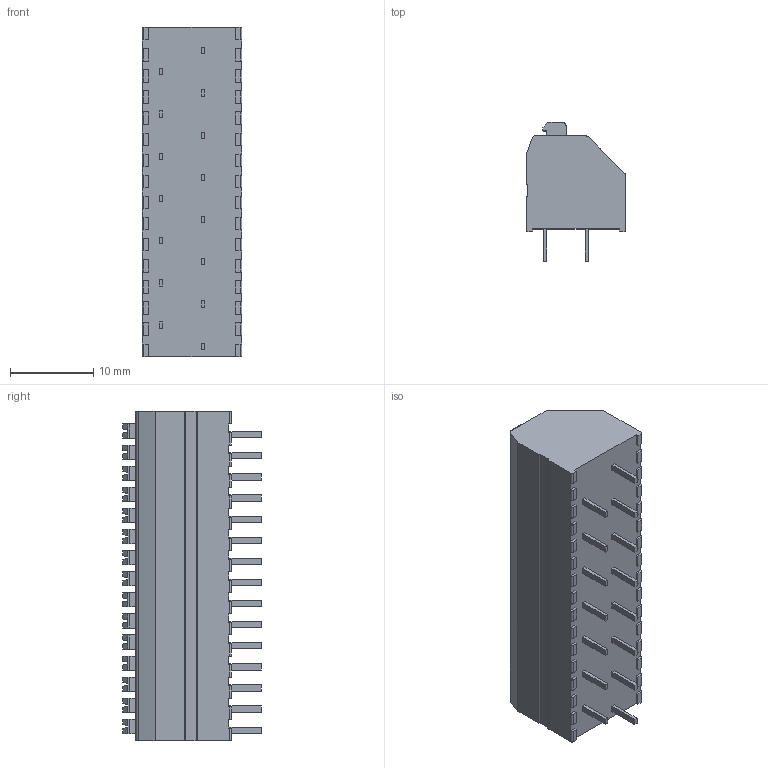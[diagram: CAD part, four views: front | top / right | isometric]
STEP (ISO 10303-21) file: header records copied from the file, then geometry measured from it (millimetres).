
FILE_DESCRIPTION(/* description */ ('STEP AP214'),/* implementation_level */ '2;1');
FILE_NAME(/* name */ '250-1415',/* time_stamp */ '2022-10-03T17:50:01+02:00',/* author */ ('License CC BY-ND 4.0'),/* organization */ ('CADENAS'),/* preprocessor_version */ 'ST-DEVELOPER v18.102',/* originating_system */ 'PARTsolutions',/* authorisation */ ' ');
FILE_SCHEMA (('AUTOMOTIVE_DESIGN {1 0 10303 214 3 1 1}'));
Length unit declared in the file: millimetre
Products named in the file (1): 250-1415
Bounding box: 12 x 16.7 x 39.6 mm (x, y, z)
Volume: 4814.8 mm3; surface area: 2503 mm2
Topology: 1 solids, 1 shells, 681 faces, 1857 edges, 1208 vertices
Faces by surface type: plane 524, cylinder 127, cone 30
Entity records: 21305 total; most frequent: CARTESIAN_POINT 3747, ORIENTED_EDGE 3714, DIRECTION 3565, EDGE_CURVE 1857, LINE 1513, VECTOR 1513, VERTEX_POINT 1208, AXIS2_PLACEMENT_3D 1026
